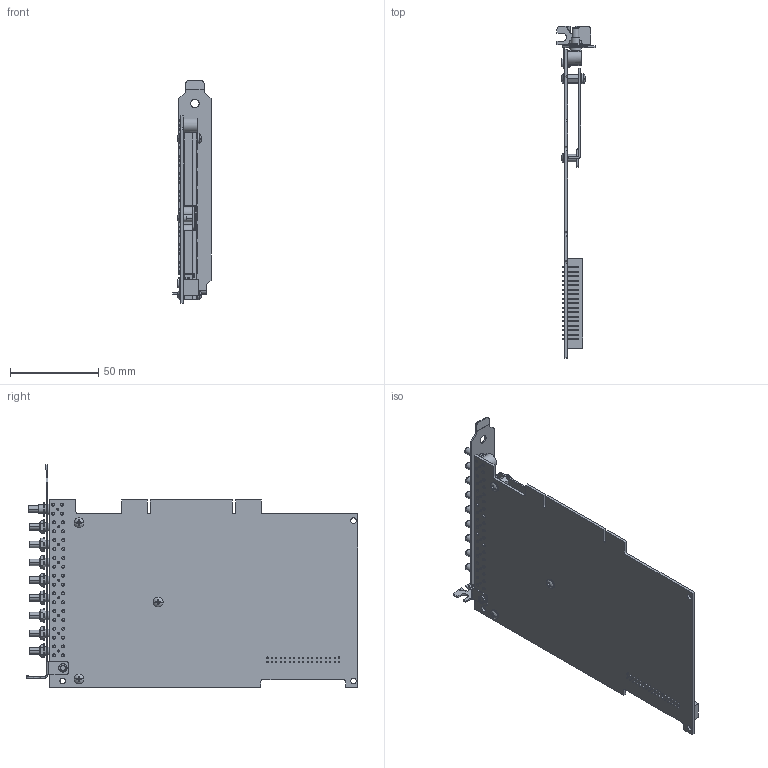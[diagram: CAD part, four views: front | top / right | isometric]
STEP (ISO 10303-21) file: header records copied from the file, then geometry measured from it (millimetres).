
FILE_DESCRIPTION((''),'2;1');
FILE_NAME('CU_PCI--4472','2011-08-22T',('dkendric'),(''),'PRO/ENGINEER BY PARAMETRIC TECHNOLOGY CORPORATION, 2010230','PRO/ENGINEER BY PARAMETRIC TECHNOLOGY CORPORATION, 2010230','');
FILE_SCHEMA(('CONFIG_CONTROL_DESIGN'));
Length unit declared in the file: inch
Products named in the file (1): CU_PCI--4472
Bounding box: 21.59 x 187.91 x 126.22 mm (x, y, z)
Volume: 43398.4 mm3; surface area: 61015.2 mm2
Topology: 10 solids, 14 shells, 1823 faces, 4807 edges, 2983 vertices
Faces by surface type: plane 1188, cylinder 448, bspline 127, cone 32, torus 16, sphere 12
Entity records: 60445 total; most frequent: CARTESIAN_POINT 15455, ORIENTED_EDGE 9374, DIRECTION 9065, EDGE_CURVE 4687, VERTEX_POINT 3097, VECTOR 3071, LINE 3071, AXIS2_PLACEMENT_3D 2997
